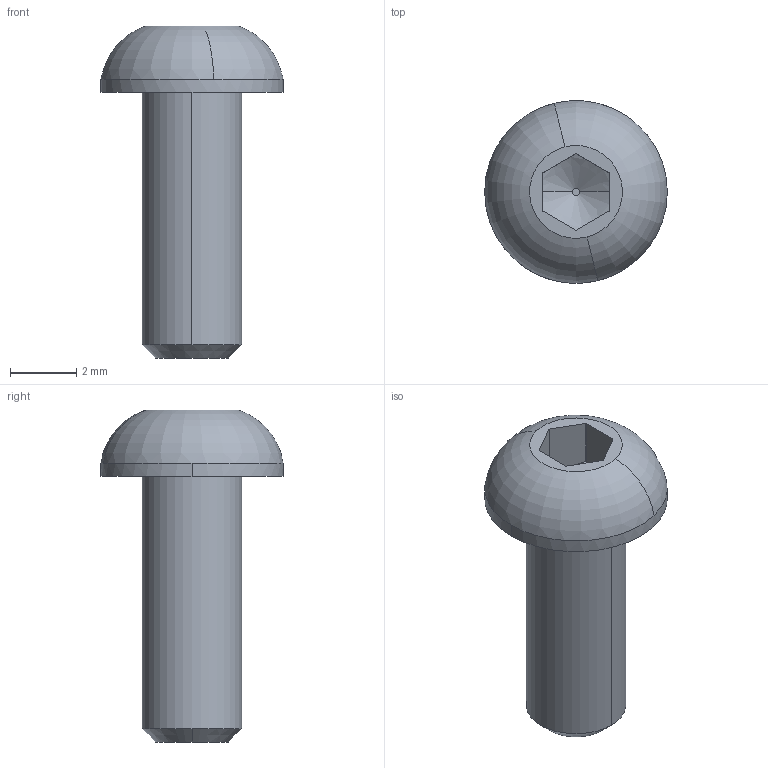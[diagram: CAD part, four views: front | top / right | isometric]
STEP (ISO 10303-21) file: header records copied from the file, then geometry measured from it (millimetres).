
FILE_DESCRIPTION (( 'STEP AP214' ), '1' );
FILE_NAME ('RS60x_SH_Screw.STEP', '2008-08-07T04:06:43', ( 'cada3' ), ( '双葉電子工業（株）' ), 'SwSTEP 2.0', 'SolidWorks 2008', '' );
FILE_SCHEMA (( 'AUTOMOTIVE_DESIGN' ));
Length unit declared in the file: millimetre
Products named in the file (1): RS60x_SH_Screw
Bounding box: 5.5 x 5.5 x 10 mm (x, y, z)
Volume: 87.7 mm3; surface area: 151.2 mm2
Topology: 1 solids, 1 shells, 26 faces, 66 edges, 44 vertices
Faces by surface type: cylinder 10, plane 10, cone 4, torus 2
Entity records: 1127 total; most frequent: CARTESIAN_POINT 169, DIRECTION 144, ORIENTED_EDGE 132, EDGE_CURVE 66, AXIS2_PLACEMENT_3D 59, VERTEX_POINT 44, CIRCLE 32, UNCERTAINTY_MEASURE_WITH_UNIT 28
